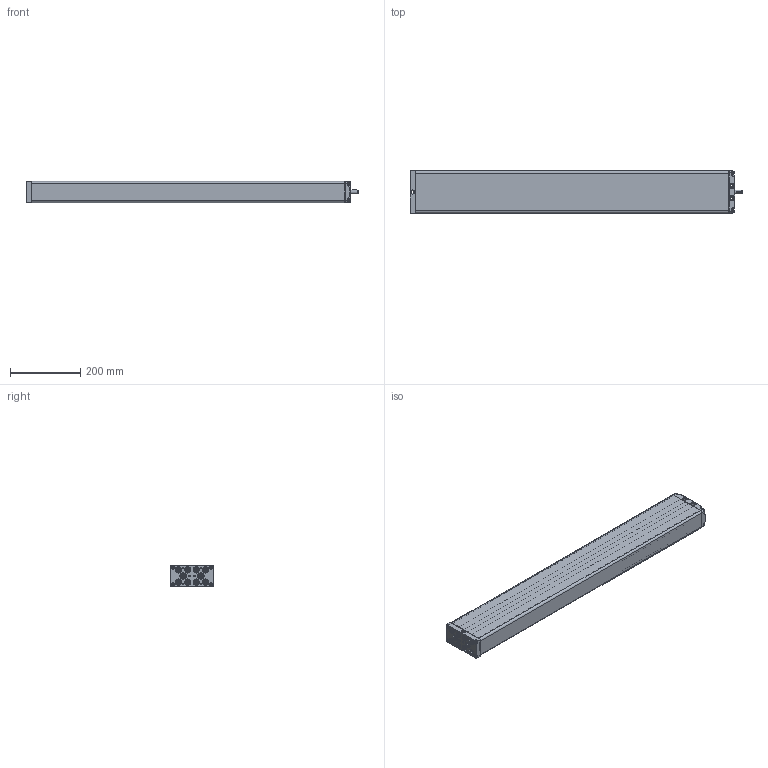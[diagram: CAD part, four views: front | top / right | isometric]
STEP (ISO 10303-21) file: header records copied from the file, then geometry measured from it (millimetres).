
FILE_DESCRIPTION(/* description */ ('Unknown'),/* implementation_level */ '2;1');
FILE_NAME(/* name */ '102.00188 Pumpe PB 0440 W',/* time_stamp */ '2016-11-03T16:55:48+01:00',/* author */ ('Unknown'),/* organization */ ('Unknown'),/* preprocessor_version */ 'ST-DEVELOPER v16.7',/* originating_system */ 'DEX',/* authorisation */ $);
FILE_SCHEMA (('AUTOMOTIVE_DESIGN {1 0 10303 214 3 1 1}'));
Products named in the file (15): 102.00188; 115.10027; 125.00031; 115.00007; 142.00021; 125.00021; 142.00013; 125.00147; 115.00140; 126.00006; 122.00040; 119.00047; 126.00036; 142.00057; 142.00017
Assembly tree (31 placements, depth 3):
  102.00188
    115.10027  x10
      125.00031
      115.00007
      142.00021
      125.00021
    142.00013  x8
    125.00147
    115.00140
      126.00006
      122.00040
    119.00047
    126.00036
    142.00057
    142.00017  x2
Bounding box: 945.5 x 120 x 60.3 mm (x, y, z)
Volume: 1109347.7 mm3; surface area: 778122.9 mm2
Topology: 46 solids, 46 shells, 2198 faces, 5020 edges, 2949 vertices
Faces by surface type: plane 771, cylinder 507, cone 377, bspline 377, torus 106, sphere 60
Full cylindrical faces by diameter (mm): 3.5 x10, 4.1 x10, 4.134 x4, 4.2 x10, 4.917 x2, 5 x8, 5.8 x4, 6 x2, 6.8 x1, 6.917 x20, 8 x21, 9 x10, 9.8 x8, 10 x5, 10.4 x1, 10.5 x4, 12.5 x10, 13 x30, 13.9 x20, 14 x1, 18 x11, 19 x1
Entity records: 59909 total; most frequent: CARTESIAN_POINT 28816, ORIENTED_EDGE 5026, DIRECTION 4369, EDGE_CURVE 2513, AXIS2_PLACEMENT_3D 1697, VERTEX_POINT 1584, FACE_BOUND 1391, EDGE_LOOP 1390
